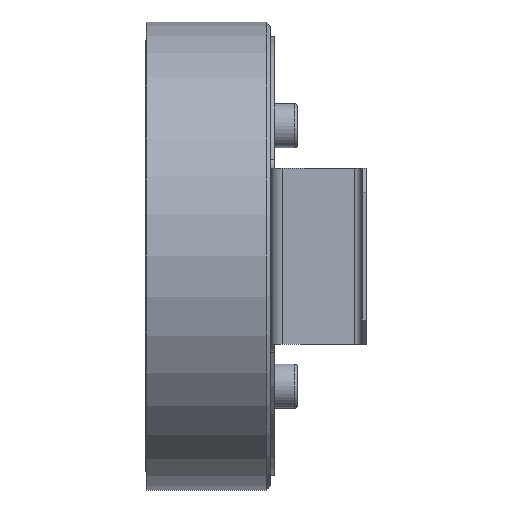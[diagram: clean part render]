
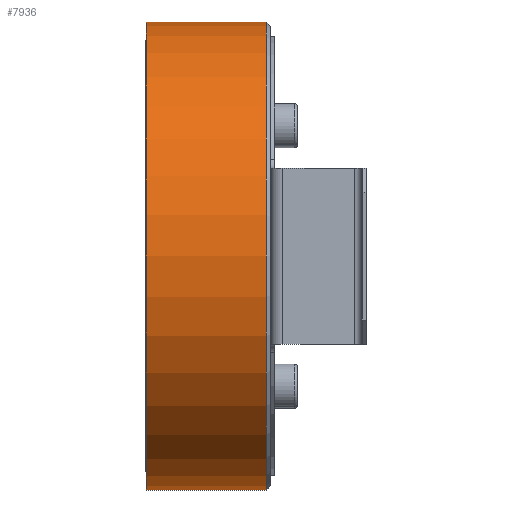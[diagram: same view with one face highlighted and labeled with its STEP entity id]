
A CAD part, left-side view. The second image highlights one B-rep face of the part: STEP entity #7936.
In plain terms, the highlighted cylindrical face has radius 29.25 mm (diameter 58.5 mm), a partial arc.
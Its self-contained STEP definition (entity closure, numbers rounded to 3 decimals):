
#1009 = VERTEX_POINT ( 'NONE', #1822 ) ;
#1189 = CARTESIAN_POINT ( 'NONE',  ( 0., 0.5, -29.25 ) ) ;
#1549 = DIRECTION ( 'NONE',  ( 0., 1., 0. ) ) ;
#1822 = CARTESIAN_POINT ( 'NONE',  ( 0., 15.5, -29.25 ) ) ;
#2440 = CIRCLE ( 'NONE', #7717, 29.25 ) ;
#3171 = EDGE_LOOP ( 'NONE', ( #4320, #4445, #13394, #17387 ) ) ;
#3848 = CARTESIAN_POINT ( 'NONE',  ( 0., 15.5, 29.25 ) ) ;
#4320 = ORIENTED_EDGE ( 'NONE', *, *, #14134, .F. ) ;
#4445 = ORIENTED_EDGE ( 'NONE', *, *, #18496, .T. ) ;
#4723 = VERTEX_POINT ( 'NONE', #1189 ) ;
#7717 = AXIS2_PLACEMENT_3D ( 'NONE', #10063, #16810, #10206 ) ;
#7936 = ADVANCED_FACE ( 'NONE', ( #18746 ), #13842, .T. ) ;
#8438 = EDGE_CURVE ( 'NONE', #16854, #19938, #15056, .T. ) ;
#9716 = AXIS2_PLACEMENT_3D ( 'NONE', #15496, #19037, #18817 ) ;
#9727 = AXIS2_PLACEMENT_3D ( 'NONE', #10895, #12548, #20872 ) ;
#10063 = CARTESIAN_POINT ( 'NONE',  ( 0., 15.5, 0. ) ) ;
#10206 = DIRECTION ( 'NONE',  ( 0., 0., 1. ) ) ;
#10895 = CARTESIAN_POINT ( 'NONE',  ( 0., 32.8, 0. ) ) ;
#12265 = EDGE_CURVE ( 'NONE', #1009, #19938, #2440, .T. ) ;
#12548 = DIRECTION ( 'NONE',  ( 0., 1., 0. ) ) ;
#13394 = ORIENTED_EDGE ( 'NONE', *, *, #8438, .T. ) ;
#13842 = CYLINDRICAL_SURFACE ( 'NONE', #9727, 29.25 ) ;
#14134 = EDGE_CURVE ( 'NONE', #4723, #1009, #17794, .T. ) ;
#15056 = LINE ( 'NONE', #21296, #20252 ) ;
#15496 = CARTESIAN_POINT ( 'NONE',  ( 0., 0.5, 0. ) ) ;
#15969 = CARTESIAN_POINT ( 'NONE',  ( 0., 32.8, -29.25 ) ) ;
#16810 = DIRECTION ( 'NONE',  ( 0., 1., 0. ) ) ;
#16854 = VERTEX_POINT ( 'NONE', #20777 ) ;
#17015 = VECTOR ( 'NONE', #20806, 1000. ) ;
#17387 = ORIENTED_EDGE ( 'NONE', *, *, #12265, .F. ) ;
#17638 = CIRCLE ( 'NONE', #9716, 29.25 ) ;
#17794 = LINE ( 'NONE', #15969, #17015 ) ;
#18496 = EDGE_CURVE ( 'NONE', #4723, #16854, #17638, .T. ) ;
#18746 = FACE_OUTER_BOUND ( 'NONE', #3171, .T. ) ;
#18817 = DIRECTION ( 'NONE',  ( 0., 0., -1. ) ) ;
#19037 = DIRECTION ( 'NONE',  ( 0., 1., 0. ) ) ;
#19938 = VERTEX_POINT ( 'NONE', #3848 ) ;
#20252 = VECTOR ( 'NONE', #1549, 1000. ) ;
#20777 = CARTESIAN_POINT ( 'NONE',  ( 0., 0.5, 29.25 ) ) ;
#20806 = DIRECTION ( 'NONE',  ( 0., 1., 0. ) ) ;
#20872 = DIRECTION ( 'NONE',  ( 0., 0., 1. ) ) ;
#21296 = CARTESIAN_POINT ( 'NONE',  ( 0., 32.8, 29.25 ) ) ;
